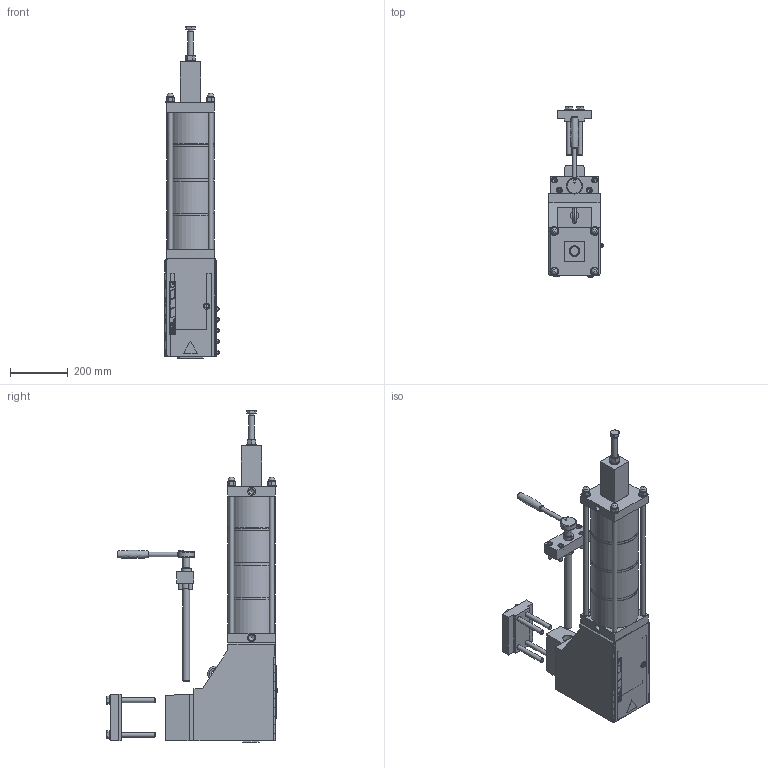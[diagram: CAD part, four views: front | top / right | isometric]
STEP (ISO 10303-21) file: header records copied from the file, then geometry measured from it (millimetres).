
FILE_DESCRIPTION(/* description */ (''),/* implementation_level */ '2;1');
FILE_NAME(/* name */ 'P:\Transfer Test\LP\Pressen_LP\LP Presseinheiten\PEH LP 45kN Hub80 G0600.stp',/* time_stamp */ '2020-11-12T13:03:35+01:00',/* author */ ('gsp'),/* organization */ (''),/* preprocessor_version */ 'ST-DEVELOPER v18',/* originating_system */ 'Autodesk Inventor 2020',/* authorisation */ '');
FILE_SCHEMA (('AUTOMOTIVE_DESIGN { 1 0 10303 214 3 1 1 }'));
Products named in the file (6): PEH LP 45kN Hub80 G0600; Spannplatte G0600; Führungseinheit_LP G0600_ohne_Schlitten_ANR18108; Schlittendummy_LP_G0600_ANR18109; LP_Zylinder_45kN_Hub80_ANR18141; Stellspindel G0600
Assembly tree (5 placements, depth 2):
  PEH LP 45kN Hub80 G0600
    Spannplatte G0600
    Führungseinheit_LP G0600_ohne_Schlitten_ANR18108
    Schlittendummy_LP_G0600_ANR18109
    LP_Zylinder_45kN_Hub80_ANR18141
    Stellspindel G0600
Bounding box: 188.72 x 594.57 x 1152.9 mm (x, y, z)
Volume: 26968871.7 mm3; surface area: 1532560.8 mm2
Topology: 7 solids, 43 shells, 6719 faces, 18071 edges, 11999 vertices
Faces by surface type: plane 3459, bspline 2563, cylinder 423, cone 226, torus 40, sphere 8
Full cylindrical faces by diameter (mm): 2 x6, 2.1 x4, 3 x12, 3.242 x4, 4 x4, 4.134 x2, 4.917 x1, 5 x2, 5.1 x4, 5.2 x2, 5.5 x4, 6.2 x3, 6.5 x1, 6.647 x6, 6.8 x12, 6.917 x1, 8 x13, 8.4 x10, 9 x2, 10 x35, 10.106 x1, 10.45 x52, 10.5 x4, 11.5 x4, 12 x4, 13 x3, 13.5 x4, 13.835 x6, 15 x4, 15.5 x1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
Entity records: 241574 total; most frequent: CARTESIAN_POINT 83793, ORIENTED_EDGE 36016, DIRECTION 21941, EDGE_CURVE 18008, VERTEX_POINT 12001, LINE 10915, VECTOR 10915, EDGE_LOOP 7480
